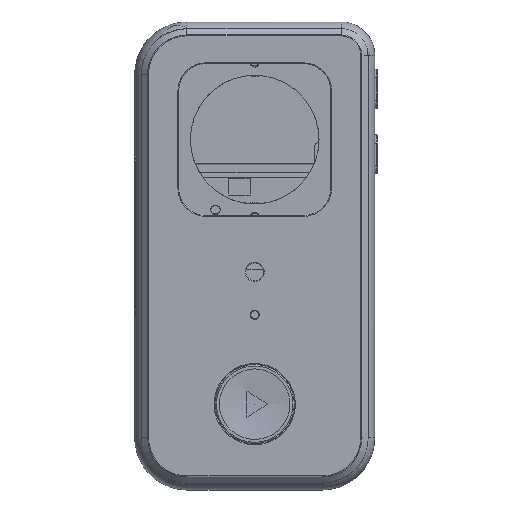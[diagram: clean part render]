
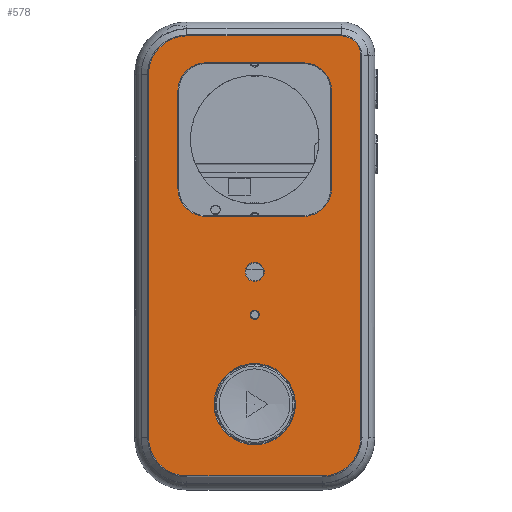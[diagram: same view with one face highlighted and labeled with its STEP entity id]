
A CAD part, top view. The second image highlights one B-rep face of the part: STEP entity #578.
In plain terms, the highlighted planar face has unit normal (0, 0, 1).
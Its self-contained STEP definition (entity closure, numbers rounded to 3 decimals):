
#111 = VERTEX_POINT('',#112);
#112 = CARTESIAN_POINT('',(21.,130.,19.4));
#120 = VERTEX_POINT('',#121);
#121 = CARTESIAN_POINT('',(51.,130.,19.4));
#127 = EDGE_CURVE('',#111,#120,#128,.T.);
#128 = LINE('',#129,#130);
#129 = CARTESIAN_POINT('',(21.,130.,19.4));
#130 = VECTOR('',#131,1.);
#131 = DIRECTION('',(1.,0.,0.));
#511 = VERTEX_POINT('',#512);
#512 = CARTESIAN_POINT('',(59.5,121.5,19.4));
#518 = EDGE_CURVE('',#120,#511,#519,.T.);
#519 = CIRCLE('',#520,8.5);
#520 = AXIS2_PLACEMENT_3D('',#521,#522,#523);
#521 = CARTESIAN_POINT('',(51.,121.5,19.4));
#522 = DIRECTION('',(0.,0.,-1.));
#523 = DIRECTION('',(0.,1.,0.));
#558 = VERTEX_POINT('',#559);
#559 = CARTESIAN_POINT('',(12.5,121.5,19.4));
#567 = EDGE_CURVE('',#558,#111,#568,.T.);
#568 = CIRCLE('',#569,8.5);
#569 = AXIS2_PLACEMENT_3D('',#570,#571,#572);
#570 = CARTESIAN_POINT('',(21.,121.5,19.4));
#571 = DIRECTION('',(0.,0.,-1.));
#572 = DIRECTION('',(-1.,0.,0.));
#578 = ADVANCED_FACE('',(#579,#624,#730,#741,#752),#763,.T.);
#579 = FACE_BOUND('',#580,.T.);
#580 = EDGE_LOOP('',(#581,#582,#583,#591,#600,#608,#617,#623));
#581 = ORIENTED_EDGE('',*,*,#127,.T.);
#582 = ORIENTED_EDGE('',*,*,#518,.T.);
#583 = ORIENTED_EDGE('',*,*,#584,.T.);
#584 = EDGE_CURVE('',#511,#585,#587,.T.);
#585 = VERTEX_POINT('',#586);
#586 = CARTESIAN_POINT('',(59.5,91.5,19.4));
#587 = LINE('',#588,#589);
#588 = CARTESIAN_POINT('',(59.5,121.5,19.4));
#589 = VECTOR('',#590,1.);
#590 = DIRECTION('',(0.,-1.,0.));
#591 = ORIENTED_EDGE('',*,*,#592,.T.);
#592 = EDGE_CURVE('',#585,#593,#595,.T.);
#593 = VERTEX_POINT('',#594);
#594 = CARTESIAN_POINT('',(51.,83.,19.4));
#595 = CIRCLE('',#596,8.5);
#596 = AXIS2_PLACEMENT_3D('',#597,#598,#599);
#597 = CARTESIAN_POINT('',(51.,91.5,19.4));
#598 = DIRECTION('',(0.,0.,-1.));
#599 = DIRECTION('',(1.,0.,0.));
#600 = ORIENTED_EDGE('',*,*,#601,.T.);
#601 = EDGE_CURVE('',#593,#602,#604,.T.);
#602 = VERTEX_POINT('',#603);
#603 = CARTESIAN_POINT('',(21.,83.,19.4));
#604 = LINE('',#605,#606);
#605 = CARTESIAN_POINT('',(51.,83.,19.4));
#606 = VECTOR('',#607,1.);
#607 = DIRECTION('',(-1.,-0.,-0.));
#608 = ORIENTED_EDGE('',*,*,#609,.T.);
#609 = EDGE_CURVE('',#602,#610,#612,.T.);
#610 = VERTEX_POINT('',#611);
#611 = CARTESIAN_POINT('',(12.5,91.5,19.4));
#612 = CIRCLE('',#613,8.5);
#613 = AXIS2_PLACEMENT_3D('',#614,#615,#616);
#614 = CARTESIAN_POINT('',(21.,91.5,19.4));
#615 = DIRECTION('',(-0.,-0.,-1.));
#616 = DIRECTION('',(0.,-1.,0.));
#617 = ORIENTED_EDGE('',*,*,#618,.T.);
#618 = EDGE_CURVE('',#610,#558,#619,.T.);
#619 = LINE('',#620,#621);
#620 = CARTESIAN_POINT('',(12.5,91.5,19.4));
#621 = VECTOR('',#622,1.);
#622 = DIRECTION('',(0.,1.,0.));
#623 = ORIENTED_EDGE('',*,*,#567,.T.);
#624 = FACE_BOUND('',#625,.T.);
#625 = EDGE_LOOP('',(#626,#637,#645,#654,#662,#671,#679,#688,#696,#705,
    #714,#723));
#626 = ORIENTED_EDGE('',*,*,#627,.F.);
#627 = EDGE_CURVE('',#628,#630,#632,.T.);
#628 = VERTEX_POINT('',#629);
#629 = CARTESIAN_POINT('',(3.516,126.5,19.4));
#630 = VERTEX_POINT('',#631);
#631 = CARTESIAN_POINT('',(3.516,126.541,19.4));
#632 = CIRCLE('',#633,11.734);
#633 = AXIS2_PLACEMENT_3D('',#634,#635,#636);
#634 = CARTESIAN_POINT('',(15.25,126.5,19.4));
#635 = DIRECTION('',(0.,-0.,-1.));
#636 = DIRECTION('',(-1.,0.,0.));
#637 = ORIENTED_EDGE('',*,*,#638,.F.);
#638 = EDGE_CURVE('',#639,#628,#641,.T.);
#639 = VERTEX_POINT('',#640);
#640 = CARTESIAN_POINT('',(3.516,15.25,19.4));
#641 = LINE('',#642,#643);
#642 = CARTESIAN_POINT('',(3.516,15.25,19.4));
#643 = VECTOR('',#644,1.);
#644 = DIRECTION('',(0.,1.,0.));
#645 = ORIENTED_EDGE('',*,*,#646,.F.);
#646 = EDGE_CURVE('',#647,#639,#649,.T.);
#647 = VERTEX_POINT('',#648);
#648 = CARTESIAN_POINT('',(15.25,3.516,19.4));
#649 = CIRCLE('',#650,11.734);
#650 = AXIS2_PLACEMENT_3D('',#651,#652,#653);
#651 = CARTESIAN_POINT('',(15.25,15.25,19.4));
#652 = DIRECTION('',(0.,-0.,-1.));
#653 = DIRECTION('',(0.,-1.,0.));
#654 = ORIENTED_EDGE('',*,*,#655,.F.);
#655 = EDGE_CURVE('',#656,#647,#658,.T.);
#656 = VERTEX_POINT('',#657);
#657 = CARTESIAN_POINT('',(56.75,3.516,19.4));
#658 = LINE('',#659,#660);
#659 = CARTESIAN_POINT('',(56.75,3.516,19.4));
#660 = VECTOR('',#661,1.);
#661 = DIRECTION('',(-1.,0.,-0.));
#662 = ORIENTED_EDGE('',*,*,#663,.F.);
#663 = EDGE_CURVE('',#664,#656,#666,.T.);
#664 = VERTEX_POINT('',#665);
#665 = CARTESIAN_POINT('',(68.484,15.25,19.4));
#666 = CIRCLE('',#667,11.734);
#667 = AXIS2_PLACEMENT_3D('',#668,#669,#670);
#668 = CARTESIAN_POINT('',(56.75,15.25,19.4));
#669 = DIRECTION('',(0.,0.,-1.));
#670 = DIRECTION('',(1.,0.,0.));
#671 = ORIENTED_EDGE('',*,*,#672,.F.);
#672 = EDGE_CURVE('',#673,#664,#675,.T.);
#673 = VERTEX_POINT('',#674);
#674 = CARTESIAN_POINT('',(68.484,132.25,19.4));
#675 = LINE('',#676,#677);
#676 = CARTESIAN_POINT('',(68.484,126.5,19.4));
#677 = VECTOR('',#678,1.);
#678 = DIRECTION('',(0.,-1.,0.));
#679 = ORIENTED_EDGE('',*,*,#680,.F.);
#680 = EDGE_CURVE('',#681,#673,#683,.T.);
#681 = VERTEX_POINT('',#682);
#682 = CARTESIAN_POINT('',(62.5,138.234,19.4));
#683 = CIRCLE('',#684,5.984);
#684 = AXIS2_PLACEMENT_3D('',#685,#686,#687);
#685 = CARTESIAN_POINT('',(62.5,132.25,19.4));
#686 = DIRECTION('',(0.,0.,-1.));
#687 = DIRECTION('',(0.,1.,-0.));
#688 = ORIENTED_EDGE('',*,*,#689,.F.);
#689 = EDGE_CURVE('',#690,#681,#692,.T.);
#690 = VERTEX_POINT('',#691);
#691 = CARTESIAN_POINT('',(15.25,138.234,19.4));
#692 = LINE('',#693,#694);
#693 = CARTESIAN_POINT('',(9.5,138.234,19.4));
#694 = VECTOR('',#695,1.);
#695 = DIRECTION('',(1.,0.,0.));
#696 = ORIENTED_EDGE('',*,*,#697,.F.);
#697 = EDGE_CURVE('',#698,#690,#700,.T.);
#698 = VERTEX_POINT('',#699);
#699 = CARTESIAN_POINT('',(3.678,128.443,19.4));
#700 = CIRCLE('',#701,11.734);
#701 = AXIS2_PLACEMENT_3D('',#702,#703,#704);
#702 = CARTESIAN_POINT('',(15.25,126.5,19.4));
#703 = DIRECTION('',(0.,-0.,-1.));
#704 = DIRECTION('',(-1.,0.,0.));
#705 = ORIENTED_EDGE('',*,*,#706,.F.);
#706 = EDGE_CURVE('',#707,#698,#709,.T.);
#707 = VERTEX_POINT('',#708);
#708 = CARTESIAN_POINT('',(3.605,127.943,19.4));
#709 = CIRCLE('',#710,11.734);
#710 = AXIS2_PLACEMENT_3D('',#711,#712,#713);
#711 = CARTESIAN_POINT('',(15.25,126.5,19.4));
#712 = DIRECTION('',(0.,-0.,-1.));
#713 = DIRECTION('',(-1.,0.,0.));
#714 = ORIENTED_EDGE('',*,*,#715,.F.);
#715 = EDGE_CURVE('',#716,#707,#718,.T.);
#716 = VERTEX_POINT('',#717);
#717 = CARTESIAN_POINT('',(3.531,127.08,19.4));
#718 = CIRCLE('',#719,11.734);
#719 = AXIS2_PLACEMENT_3D('',#720,#721,#722);
#720 = CARTESIAN_POINT('',(15.25,126.5,19.4));
#721 = DIRECTION('',(0.,-0.,-1.));
#722 = DIRECTION('',(-1.,0.,0.));
#723 = ORIENTED_EDGE('',*,*,#724,.F.);
#724 = EDGE_CURVE('',#630,#716,#725,.T.);
#725 = CIRCLE('',#726,11.734);
#726 = AXIS2_PLACEMENT_3D('',#727,#728,#729);
#727 = CARTESIAN_POINT('',(15.25,126.5,19.4));
#728 = DIRECTION('',(0.,-0.,-1.));
#729 = DIRECTION('',(-1.,0.,0.));
#730 = FACE_BOUND('',#731,.T.);
#731 = EDGE_LOOP('',(#732));
#732 = ORIENTED_EDGE('',*,*,#733,.F.);
#733 = EDGE_CURVE('',#734,#734,#736,.T.);
#734 = VERTEX_POINT('',#735);
#735 = CARTESIAN_POINT('',(48.45,25.5,19.4));
#736 = CIRCLE('',#737,12.45);
#737 = AXIS2_PLACEMENT_3D('',#738,#739,#740);
#738 = CARTESIAN_POINT('',(36.,25.5,19.4));
#739 = DIRECTION('',(0.,0.,1.));
#740 = DIRECTION('',(1.,0.,0.));
#741 = FACE_BOUND('',#742,.T.);
#742 = EDGE_LOOP('',(#743));
#743 = ORIENTED_EDGE('',*,*,#744,.F.);
#744 = EDGE_CURVE('',#745,#745,#747,.T.);
#745 = VERTEX_POINT('',#746);
#746 = CARTESIAN_POINT('',(38.9,66.,19.4));
#747 = CIRCLE('',#748,2.9);
#748 = AXIS2_PLACEMENT_3D('',#749,#750,#751);
#749 = CARTESIAN_POINT('',(36.,66.,19.4));
#750 = DIRECTION('',(0.,0.,1.));
#751 = DIRECTION('',(1.,0.,0.));
#752 = FACE_BOUND('',#753,.T.);
#753 = EDGE_LOOP('',(#754));
#754 = ORIENTED_EDGE('',*,*,#755,.F.);
#755 = EDGE_CURVE('',#756,#756,#758,.T.);
#756 = VERTEX_POINT('',#757);
#757 = CARTESIAN_POINT('',(37.4,52.875,19.4));
#758 = CIRCLE('',#759,1.4);
#759 = AXIS2_PLACEMENT_3D('',#760,#761,#762);
#760 = CARTESIAN_POINT('',(36.,52.875,19.4));
#761 = DIRECTION('',(0.,0.,1.));
#762 = DIRECTION('',(1.,0.,0.));
#763 = PLANE('',#764);
#764 = AXIS2_PLACEMENT_3D('',#765,#766,#767);
#765 = CARTESIAN_POINT('',(36.235,71.364,19.4));
#766 = DIRECTION('',(0.,0.,1.));
#767 = DIRECTION('',(1.,0.,0.));
